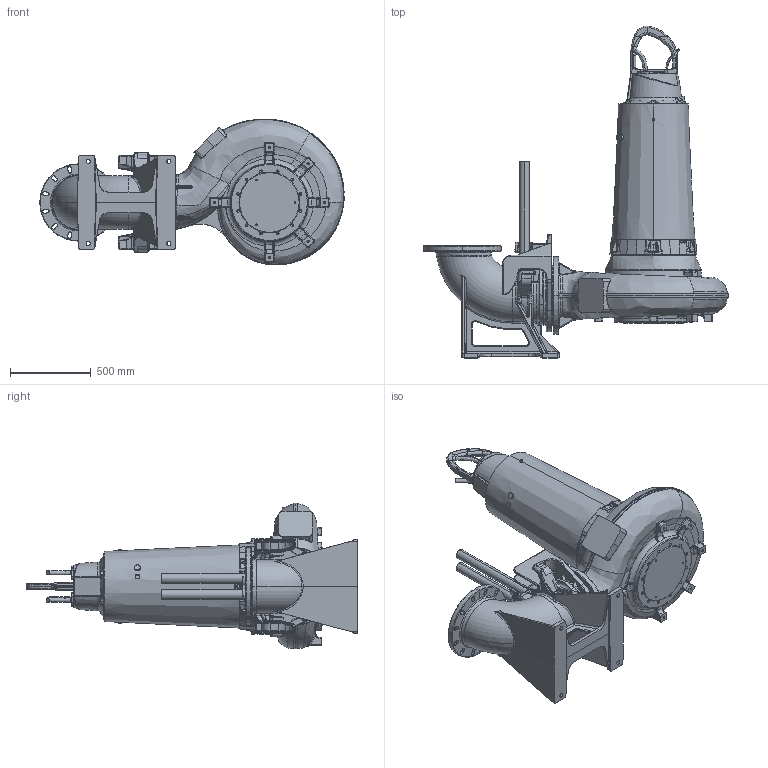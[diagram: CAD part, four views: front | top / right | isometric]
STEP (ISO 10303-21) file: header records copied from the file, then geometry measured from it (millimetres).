
FILE_DESCRIPTION (( 'STEP AP214' ), '1' );
FILE_NAME ('PE5_XFP300M-CH2_WET 2guide_A_NG2.STEP', '2017-03-09T13:31:17', ( '' ), ( '' ), 'SwSTEP 2.0', 'SolidWorks 2017', '' );
FILE_SCHEMA (( 'AUTOMOTIVE_DESIGN' ));
Length unit declared in the file: millimetre
Products named in the file (1): PE5_XFP300M-CH2_WET 2guide_A_NG2
Bounding box: 1889.63 x 2059.99 x 905.91 mm (x, y, z)
Volume: 492141953.3 mm3; surface area: 8354913.2 mm2
Topology: 4 solids, 14 shells, 3480 faces, 8618 edges, 5082 vertices
Faces by surface type: bspline 1137, cylinder 1030, plane 672, torus 311, cone 232, sphere 98
Entity records: 225342 total; most frequent: CARTESIAN_POINT 114875, ORIENTED_EDGE 16858, DIRECTION 12769, EDGE_CURVE 8429, AXIS2_PLACEMENT_3D 5103, VERTEX_POINT 5080, EDGE_LOOP 3691, UNCERTAINTY_MEASURE_WITH_UNIT 3486
